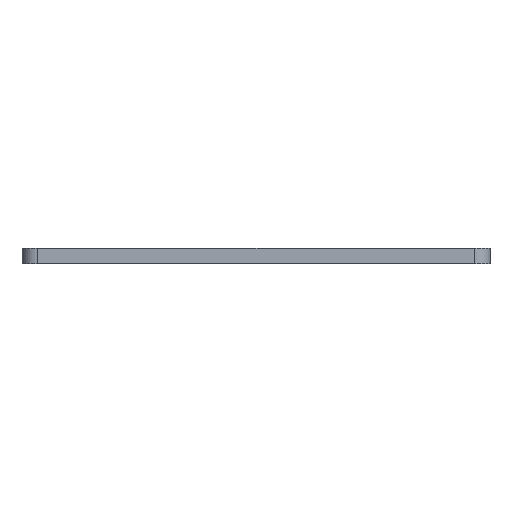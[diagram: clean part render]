
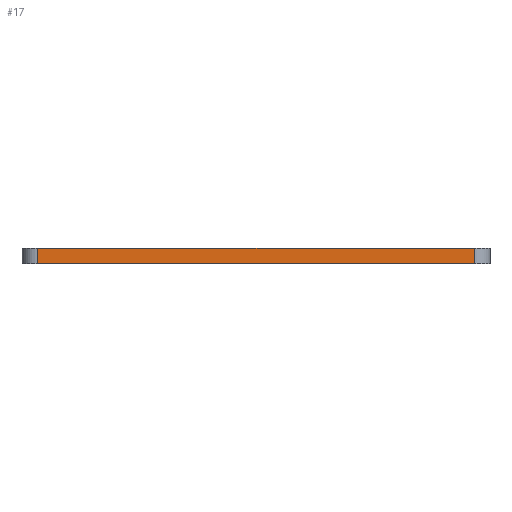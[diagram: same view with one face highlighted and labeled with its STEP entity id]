
A CAD part, front view. The second image highlights one B-rep face of the part: STEP entity #17.
In plain terms, the highlighted planar face has unit normal (0, -1, 0).
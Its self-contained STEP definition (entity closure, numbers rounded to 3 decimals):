
#17 = ADVANCED_FACE('',(#18),#32,.F.);
#18 = FACE_BOUND('',#19,.F.);
#19 = EDGE_LOOP('',(#20,#55,#83,#111));
#20 = ORIENTED_EDGE('',*,*,#21,.F.);
#21 = EDGE_CURVE('',#22,#24,#26,.T.);
#22 = VERTEX_POINT('',#23);
#23 = CARTESIAN_POINT('',(-56.,-67.5,0.));
#24 = VERTEX_POINT('',#25);
#25 = CARTESIAN_POINT('',(56.,-67.5,0.));
#26 = SURFACE_CURVE('',#27,(#31,#43),.PCURVE_S1.);
#27 = LINE('',#28,#29);
#28 = CARTESIAN_POINT('',(-60.,-67.5,0.));
#29 = VECTOR('',#30,1.);
#30 = DIRECTION('',(1.,0.,0.));
#31 = PCURVE('',#32,#37);
#32 = PLANE('',#33);
#33 = AXIS2_PLACEMENT_3D('',#34,#35,#36);
#34 = CARTESIAN_POINT('',(-60.,-67.5,0.));
#35 = DIRECTION('',(0.,1.,0.));
#36 = DIRECTION('',(1.,0.,0.));
#37 = DEFINITIONAL_REPRESENTATION('',(#38),#42);
#38 = LINE('',#39,#40);
#39 = CARTESIAN_POINT('',(0.,0.));
#40 = VECTOR('',#41,1.);
#41 = DIRECTION('',(1.,0.));
#42 = ( GEOMETRIC_REPRESENTATION_CONTEXT(2) 
PARAMETRIC_REPRESENTATION_CONTEXT() REPRESENTATION_CONTEXT('2D SPACE',''
  ) );
#43 = PCURVE('',#44,#49);
#44 = PLANE('',#45);
#45 = AXIS2_PLACEMENT_3D('',#46,#47,#48);
#46 = CARTESIAN_POINT('',(0.,0.,0.));
#47 = DIRECTION('',(0.,0.,1.));
#48 = DIRECTION('',(1.,0.,-0.));
#49 = DEFINITIONAL_REPRESENTATION('',(#50),#54);
#50 = LINE('',#51,#52);
#51 = CARTESIAN_POINT('',(-60.,-67.5));
#52 = VECTOR('',#53,1.);
#53 = DIRECTION('',(1.,0.));
#54 = ( GEOMETRIC_REPRESENTATION_CONTEXT(2) 
PARAMETRIC_REPRESENTATION_CONTEXT() REPRESENTATION_CONTEXT('2D SPACE',''
  ) );
#55 = ORIENTED_EDGE('',*,*,#56,.T.);
#56 = EDGE_CURVE('',#22,#57,#59,.T.);
#57 = VERTEX_POINT('',#58);
#58 = CARTESIAN_POINT('',(-56.,-67.5,4.));
#59 = SURFACE_CURVE('',#60,(#64,#71),.PCURVE_S1.);
#60 = LINE('',#61,#62);
#61 = CARTESIAN_POINT('',(-56.,-67.5,0.));
#62 = VECTOR('',#63,1.);
#63 = DIRECTION('',(0.,0.,1.));
#64 = PCURVE('',#32,#65);
#65 = DEFINITIONAL_REPRESENTATION('',(#66),#70);
#66 = LINE('',#67,#68);
#67 = CARTESIAN_POINT('',(4.,0.));
#68 = VECTOR('',#69,1.);
#69 = DIRECTION('',(0.,-1.));
#70 = ( GEOMETRIC_REPRESENTATION_CONTEXT(2) 
PARAMETRIC_REPRESENTATION_CONTEXT() REPRESENTATION_CONTEXT('2D SPACE',''
  ) );
#71 = PCURVE('',#72,#77);
#72 = CYLINDRICAL_SURFACE('',#73,4.);
#73 = AXIS2_PLACEMENT_3D('',#74,#75,#76);
#74 = CARTESIAN_POINT('',(-56.,-63.5,0.));
#75 = DIRECTION('',(0.,0.,1.));
#76 = DIRECTION('',(0.,-1.,0.));
#77 = DEFINITIONAL_REPRESENTATION('',(#78),#82);
#78 = LINE('',#79,#80);
#79 = CARTESIAN_POINT('',(-0.,0.));
#80 = VECTOR('',#81,1.);
#81 = DIRECTION('',(-0.,1.));
#82 = ( GEOMETRIC_REPRESENTATION_CONTEXT(2) 
PARAMETRIC_REPRESENTATION_CONTEXT() REPRESENTATION_CONTEXT('2D SPACE',''
  ) );
#83 = ORIENTED_EDGE('',*,*,#84,.T.);
#84 = EDGE_CURVE('',#57,#85,#87,.T.);
#85 = VERTEX_POINT('',#86);
#86 = CARTESIAN_POINT('',(56.,-67.5,4.));
#87 = SURFACE_CURVE('',#88,(#92,#99),.PCURVE_S1.);
#88 = LINE('',#89,#90);
#89 = CARTESIAN_POINT('',(-60.,-67.5,4.));
#90 = VECTOR('',#91,1.);
#91 = DIRECTION('',(1.,0.,0.));
#92 = PCURVE('',#32,#93);
#93 = DEFINITIONAL_REPRESENTATION('',(#94),#98);
#94 = LINE('',#95,#96);
#95 = CARTESIAN_POINT('',(0.,-4.));
#96 = VECTOR('',#97,1.);
#97 = DIRECTION('',(1.,0.));
#98 = ( GEOMETRIC_REPRESENTATION_CONTEXT(2) 
PARAMETRIC_REPRESENTATION_CONTEXT() REPRESENTATION_CONTEXT('2D SPACE',''
  ) );
#99 = PCURVE('',#100,#105);
#100 = PLANE('',#101);
#101 = AXIS2_PLACEMENT_3D('',#102,#103,#104);
#102 = CARTESIAN_POINT('',(0.,0.,4.));
#103 = DIRECTION('',(0.,0.,1.));
#104 = DIRECTION('',(1.,0.,-0.));
#105 = DEFINITIONAL_REPRESENTATION('',(#106),#110);
#106 = LINE('',#107,#108);
#107 = CARTESIAN_POINT('',(-60.,-67.5));
#108 = VECTOR('',#109,1.);
#109 = DIRECTION('',(1.,0.));
#110 = ( GEOMETRIC_REPRESENTATION_CONTEXT(2) 
PARAMETRIC_REPRESENTATION_CONTEXT() REPRESENTATION_CONTEXT('2D SPACE',''
  ) );
#111 = ORIENTED_EDGE('',*,*,#112,.F.);
#112 = EDGE_CURVE('',#24,#85,#113,.T.);
#113 = SURFACE_CURVE('',#114,(#118,#125),.PCURVE_S1.);
#114 = LINE('',#115,#116);
#115 = CARTESIAN_POINT('',(56.,-67.5,0.));
#116 = VECTOR('',#117,1.);
#117 = DIRECTION('',(0.,0.,1.));
#118 = PCURVE('',#32,#119);
#119 = DEFINITIONAL_REPRESENTATION('',(#120),#124);
#120 = LINE('',#121,#122);
#121 = CARTESIAN_POINT('',(116.,0.));
#122 = VECTOR('',#123,1.);
#123 = DIRECTION('',(0.,-1.));
#124 = ( GEOMETRIC_REPRESENTATION_CONTEXT(2) 
PARAMETRIC_REPRESENTATION_CONTEXT() REPRESENTATION_CONTEXT('2D SPACE',''
  ) );
#125 = PCURVE('',#126,#131);
#126 = CYLINDRICAL_SURFACE('',#127,4.);
#127 = AXIS2_PLACEMENT_3D('',#128,#129,#130);
#128 = CARTESIAN_POINT('',(56.,-63.5,0.));
#129 = DIRECTION('',(0.,0.,1.));
#130 = DIRECTION('',(0.,-1.,0.));
#131 = DEFINITIONAL_REPRESENTATION('',(#132),#136);
#132 = LINE('',#133,#134);
#133 = CARTESIAN_POINT('',(0.,0.));
#134 = VECTOR('',#135,1.);
#135 = DIRECTION('',(0.,1.));
#136 = ( GEOMETRIC_REPRESENTATION_CONTEXT(2) 
PARAMETRIC_REPRESENTATION_CONTEXT() REPRESENTATION_CONTEXT('2D SPACE',''
  ) );
